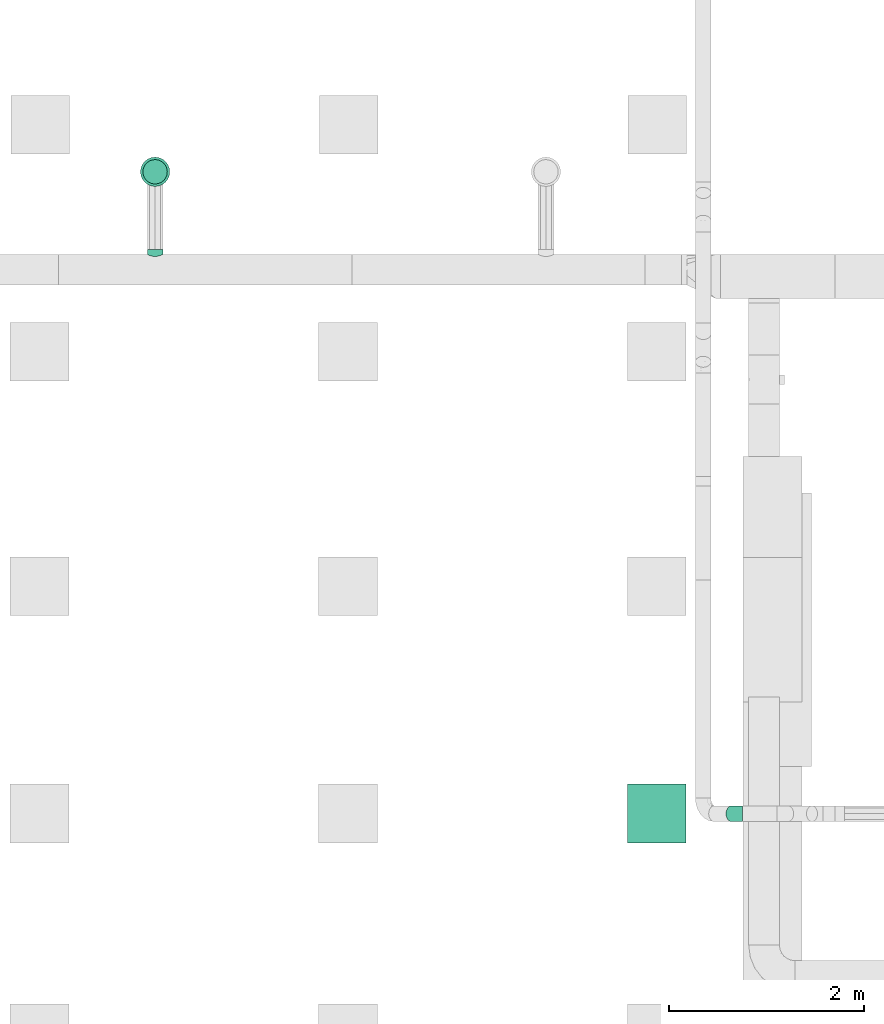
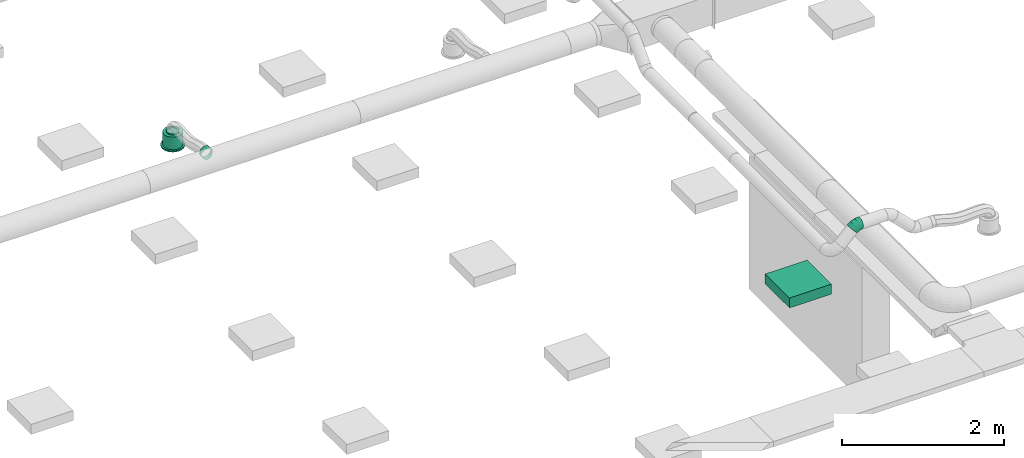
# One storey, part 23 of 119: 1 distribution element, 1 flow fitting, 1 flow segment, 1 flow terminal.
"""IFC2X3 building model written with IfcOpenShell, lengths in metres."""

from ifc_helpers import new_model, si_unit, direction, frame, frame_2d, origin, place, context, subcontext, project, spatial, rectangle, extrude, open_shell, surface_model, source, transform, mapped, element, save


model = new_model("IFC2X3")

# Units and contexts
model_context = context("Model", 3, precision=1e-05, world=origin(), true_north=direction((-0.4480736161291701, 0.8939966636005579)))
body_context = subcontext(model_context, "Body", "Model", "MODEL_VIEW")
ifc_project = project(units=[si_unit("LENGTHUNIT", "METRE"), si_unit("AREAUNIT", "SQUARE_METRE"), si_unit("VOLUMEUNIT", "CUBIC_METRE"), si_unit("PLANEANGLEUNIT", "RADIAN"), si_unit("THERMODYNAMICTEMPERATUREUNIT", "KELVIN"), si_unit("MASSUNIT", "GRAM", prefix="KILO"), si_unit("TIMEUNIT", "SECOND")], contexts=[model_context])

# Site, building, storey
site_placement = place(None, origin())
site = spatial("IfcSite", under=ifc_project, at=site_placement, Name="Site 1", CompositionType="ELEMENT")
building_placement = place(site_placement, origin())
building = spatial("IfcBuilding", under=site, at=building_placement, Name="Undefined", CompositionType="ELEMENT")
storey_placement = place(building_placement, frame((0.0, 0.0, 5.4)))
storey = spatial("IfcBuildingStorey", under=building, at=storey_placement, Name="R+1", CompositionType="ELEMENT", Elevation=5.4)

# Flow terminal
shared_shape_1 = source(origin(), body_context, "Body", "SurfaceModel", [
    surface_model("IfcFaceBasedSurfaceModel", [(0.0, 0.0, 0.0), (0.03915785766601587, 0.0, 0.0), (0.03915785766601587, 0.020000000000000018, 0.0), (3.552713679e-15, 0.020000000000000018, 0.0), (0.07698144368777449, 0.0, -0.010134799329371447), (0.07698144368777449, 0.020000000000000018, -0.010134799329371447), (0.11089314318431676, 0.0, -0.02971372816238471), (0.11089314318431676, 0.020000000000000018, -0.02971372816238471), (0.13858192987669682, 0.0, -0.05740251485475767), (0.13858192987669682, 0.020000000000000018, -0.05740251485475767), (0.15816085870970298, 0.0, -0.09131421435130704), (0.15816085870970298, 0.020000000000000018, -0.09131421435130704), (0.16829565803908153, 0.0, -0.12913780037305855), (0.16829565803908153, 0.020000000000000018, -0.12913780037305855), (0.16829565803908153, 0.0, -0.16829565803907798), (0.16829565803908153, 0.020000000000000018, -0.16829565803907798), (0.15816085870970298, 0.0, -0.20611924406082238), (0.15816085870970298, 0.020000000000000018, -0.20611924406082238), (0.13858192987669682, 0.0, -0.24003094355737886), (0.13858192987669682, 0.020000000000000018, -0.24003094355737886), (0.11089314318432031, 0.0, -0.2677197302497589), (0.11089314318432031, 0.020000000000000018, -0.2677197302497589), (0.07698144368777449, 0.0, -0.2872986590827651), (0.07698144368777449, 0.020000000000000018, -0.2872986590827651), (0.039157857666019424, 0.0, -0.29743345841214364), (0.039157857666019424, 0.020000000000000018, -0.29743345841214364), (3.552713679e-15, 0.0, -0.29743345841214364), (3.552713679e-15, 0.020000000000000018, -0.29743345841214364), (-0.03782358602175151, 0.0, -0.2872986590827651), (-0.03782358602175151, 0.020000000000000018, -0.2872986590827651), (-0.07173528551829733, 0.0, -0.2677197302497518), (-0.07173528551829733, 0.020000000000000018, -0.2677197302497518), (-0.0994240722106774, 0.0, -0.24003094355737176), (-0.0994240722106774, 0.020000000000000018, -0.24003094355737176), (-0.11900300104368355, 0.0, -0.2061192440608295), (-0.11900300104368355, 0.020000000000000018, -0.2061192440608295), (-0.1291378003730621, 0.0, -0.16829565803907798), (-0.1291378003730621, 0.020000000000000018, -0.16829565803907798), (-0.1291378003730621, 0.0, -0.12913780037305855), (-0.1291378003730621, 0.020000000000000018, -0.12913780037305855), (-0.11900300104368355, 0.0, -0.09131421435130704), (-0.11900300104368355, 0.020000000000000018, -0.09131421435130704), (-0.0994240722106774, 0.0, -0.05740251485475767), (-0.0994240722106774, 0.020000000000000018, -0.05740251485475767), (-0.07173528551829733, 0.0, -0.029713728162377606), (-0.07173528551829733, 0.020000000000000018, -0.029713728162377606), (-0.03782358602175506, 0.0, -0.010134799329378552), (-0.03782358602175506, 0.020000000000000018, -0.010134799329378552), (0.019578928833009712, 0.0, -0.14871672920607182), (0.019578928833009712, 0.020000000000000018, -0.14871672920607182), (0.003263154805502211, 0.020000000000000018, -0.02478612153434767), (0.035894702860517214, 0.020000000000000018, -0.02478612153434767), (0.035894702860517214, 0.20999999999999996, -0.02478612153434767), (0.003263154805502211, 0.20999999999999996, -0.02478612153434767), (0.06741435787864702, 0.020000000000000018, -0.033231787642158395), (0.06741435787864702, 0.20999999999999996, -0.033231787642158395), (0.0956741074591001, 0.020000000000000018, -0.04954756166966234), (0.0956741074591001, 0.20999999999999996, -0.04954756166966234), (0.11874809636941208, 0.020000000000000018, -0.07262155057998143), (0.11874809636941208, 0.20999999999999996, -0.07262155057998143), (0.13506387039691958, 0.020000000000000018, -0.10088130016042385), (0.13506387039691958, 0.20999999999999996, -0.10088130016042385), (0.1435095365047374, 0.020000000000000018, -0.13240095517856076), (0.1435095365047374, 0.20999999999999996, -0.13240095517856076), (0.1435095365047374, 0.020000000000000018, -0.16503250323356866), (0.1435095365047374, 0.20999999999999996, -0.16503250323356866), (0.13506387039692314, 0.020000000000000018, -0.19655215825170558), (0.13506387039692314, 0.20999999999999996, -0.19655215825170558), (0.11874809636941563, 0.020000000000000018, -0.2248119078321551), (0.11874809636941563, 0.20999999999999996, -0.2248119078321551), (0.09567410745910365, 0.020000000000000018, -0.24788589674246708), (0.09567410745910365, 0.20999999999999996, -0.24788589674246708), (0.06741435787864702, 0.020000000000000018, -0.26420167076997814), (0.06741435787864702, 0.20999999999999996, -0.26420167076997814), (0.035894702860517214, 0.020000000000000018, -0.27264733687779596), (0.035894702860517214, 0.20999999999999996, -0.27264733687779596), (0.0032631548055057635, 0.020000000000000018, -0.27264733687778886), (0.0032631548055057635, 0.20999999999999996, -0.27264733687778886), (-0.028256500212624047, 0.020000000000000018, -0.26420167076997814), (-0.028256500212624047, 0.20999999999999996, -0.26420167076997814), (-0.05651624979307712, 0.020000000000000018, -0.2478858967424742), (-0.05651624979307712, 0.20999999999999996, -0.2478858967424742), (-0.07959023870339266, 0.020000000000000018, -0.2248119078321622), (-0.07959023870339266, 0.20999999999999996, -0.2248119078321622), (-0.09590601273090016, 0.020000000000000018, -0.19655215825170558), (-0.09590601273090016, 0.20999999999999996, -0.19655215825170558), (-0.10435167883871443, 0.020000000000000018, -0.16503250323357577), (-0.10435167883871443, 0.20999999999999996, -0.16503250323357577), (-0.10435167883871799, 0.020000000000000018, -0.13240095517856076), (-0.10435167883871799, 0.20999999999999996, -0.13240095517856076), (-0.09590601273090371, 0.020000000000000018, -0.10088130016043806), (-0.09590601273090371, 0.20999999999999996, -0.10088130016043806), (-0.07959023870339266, 0.020000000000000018, -0.07262155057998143), (-0.07959023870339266, 0.20999999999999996, -0.07262155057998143), (-0.056516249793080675, 0.020000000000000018, -0.04954756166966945), (-0.056516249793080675, 0.20999999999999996, -0.04954756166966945), (-0.028256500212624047, 0.020000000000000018, -0.033231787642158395), (-0.028256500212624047, 0.20999999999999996, -0.033231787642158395), (0.019578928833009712, 0.20999999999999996, -0.14871672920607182), (0.009136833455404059, 0.20999999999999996, -0.06940114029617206), (0.030021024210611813, 0.20999999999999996, -0.06940114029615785), (0.030021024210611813, 0.22999999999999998, -0.06940114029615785), (0.009136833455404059, 0.22999999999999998, -0.06940114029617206), (0.05019360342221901, 0.20999999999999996, -0.07480636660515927), (0.05019360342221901, 0.22999999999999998, -0.07480636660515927), (0.06827984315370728, 0.20999999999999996, -0.08524846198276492), (0.06827984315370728, 0.22999999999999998, -0.08524846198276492), (0.0830471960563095, 0.20999999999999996, -0.10001581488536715), (0.0830471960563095, 0.22999999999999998, -0.10001581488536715), (0.0934892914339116, 0.20999999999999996, -0.11810205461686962), (0.0934892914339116, 0.22999999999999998, -0.11810205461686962), (0.09889451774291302, 0.20999999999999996, -0.13827463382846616), (0.09889451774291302, 0.22999999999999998, -0.13827463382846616), (0.09889451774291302, 0.20999999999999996, -0.15915882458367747), (0.09889451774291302, 0.22999999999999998, -0.15915882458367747), (0.09348929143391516, 0.20999999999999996, -0.179331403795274), (0.09348929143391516, 0.22999999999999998, -0.179331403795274), (0.0830471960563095, 0.20999999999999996, -0.19741764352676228), (0.0830471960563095, 0.22999999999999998, -0.19741764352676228), (0.06827984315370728, 0.20999999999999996, -0.2121849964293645), (0.06827984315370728, 0.22999999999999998, -0.2121849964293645), (0.05019360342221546, 0.20999999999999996, -0.22262709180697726), (0.05019360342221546, 0.22999999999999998, -0.22262709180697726), (0.030021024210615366, 0.20999999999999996, -0.22803231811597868), (0.030021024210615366, 0.22999999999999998, -0.22803231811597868), (0.009136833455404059, 0.20999999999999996, -0.22803231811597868), (0.009136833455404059, 0.22999999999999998, -0.22803231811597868), (-0.011035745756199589, 0.20999999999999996, -0.22262709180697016), (-0.011035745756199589, 0.22999999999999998, -0.22262709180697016), (-0.0291219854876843, 0.20999999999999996, -0.2121849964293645), (-0.0291219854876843, 0.22999999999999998, -0.2121849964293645), (-0.043889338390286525, 0.20999999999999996, -0.19741764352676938), (-0.043889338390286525, 0.22999999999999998, -0.19741764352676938), (-0.05433143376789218, 0.20999999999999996, -0.17933140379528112), (-0.05433143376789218, 0.22999999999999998, -0.17933140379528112), (-0.05973666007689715, 0.20999999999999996, -0.15915882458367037), (-0.05973666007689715, 0.22999999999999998, -0.15915882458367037), (-0.0597366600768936, 0.20999999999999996, -0.13827463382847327), (-0.0597366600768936, 0.22999999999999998, -0.13827463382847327), (-0.05433143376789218, 0.20999999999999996, -0.11810205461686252), (-0.05433143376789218, 0.22999999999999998, -0.11810205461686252), (-0.043889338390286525, 0.20999999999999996, -0.10001581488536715), (-0.043889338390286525, 0.22999999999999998, -0.10001581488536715), (-0.02912198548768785, 0.20999999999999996, -0.08524846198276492), (-0.02912198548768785, 0.22999999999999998, -0.08524846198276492), (-0.011035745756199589, 0.20999999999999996, -0.07480636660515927), (-0.011035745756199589, 0.22999999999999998, -0.07480636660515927)], [open_shell([[[0, 1, 2, 3]], [[1, 4, 5, 2]], [[4, 6, 7, 5]], [[6, 8, 9, 7]], [[8, 10, 11, 9]], [[10, 12, 13, 11]], [[12, 14, 15, 13]], [[14, 16, 17, 15]], [[16, 18, 19, 17]], [[18, 20, 21, 19]], [[20, 22, 23, 21]], [[22, 24, 25, 23]], [[24, 26, 27, 25]], [[26, 28, 29, 27]], [[28, 30, 31, 29]], [[30, 32, 33, 31]], [[32, 34, 35, 33]], [[34, 36, 37, 35]], [[36, 38, 39, 37]], [[38, 40, 41, 39]], [[40, 42, 43, 41]], [[42, 44, 45, 43]], [[44, 46, 47, 45]], [[46, 0, 3, 47]], [[48, 1, 0]], [[48, 4, 1]], [[48, 6, 4]], [[48, 8, 6]], [[48, 10, 8]], [[48, 12, 10]], [[48, 14, 12]], [[48, 16, 14]], [[48, 18, 16]], [[48, 20, 18]], [[48, 22, 20]], [[48, 24, 22]], [[48, 26, 24]], [[48, 28, 26]], [[48, 30, 28]], [[48, 32, 30]], [[48, 34, 32]], [[48, 36, 34]], [[48, 38, 36]], [[48, 40, 38]], [[48, 42, 40]], [[48, 44, 42]], [[48, 46, 44]], [[48, 0, 46]], [[49, 47, 3]], [[49, 45, 47]], [[49, 43, 45]], [[49, 41, 43]], [[49, 39, 41]], [[49, 37, 39]], [[49, 35, 37]], [[49, 33, 35]], [[49, 31, 33]], [[49, 29, 31]], [[49, 27, 29]], [[49, 25, 27]], [[49, 23, 25]], [[49, 21, 23]], [[49, 19, 21]], [[49, 17, 19]], [[49, 15, 17]], [[49, 13, 15]], [[49, 11, 13]], [[49, 9, 11]], [[49, 7, 9]], [[49, 5, 7]], [[49, 2, 5]], [[49, 3, 2]], [[50, 51, 52, 53]], [[51, 54, 55, 52]], [[54, 56, 57, 55]], [[56, 58, 59, 57]], [[58, 60, 61, 59]], [[60, 62, 63, 61]], [[62, 64, 65, 63]], [[64, 66, 67, 65]], [[66, 68, 69, 67]], [[68, 70, 71, 69]], [[70, 72, 73, 71]], [[72, 74, 75, 73]], [[74, 76, 77, 75]], [[76, 78, 79, 77]], [[78, 80, 81, 79]], [[80, 82, 83, 81]], [[82, 84, 85, 83]], [[84, 86, 87, 85]], [[86, 88, 89, 87]], [[88, 90, 91, 89]], [[90, 92, 93, 91]], [[92, 94, 95, 93]], [[94, 96, 97, 95]], [[96, 50, 53, 97]], [[49, 51, 50]], [[49, 54, 51]], [[49, 56, 54]], [[49, 58, 56]], [[49, 60, 58]], [[49, 62, 60]], [[49, 64, 62]], [[49, 66, 64]], [[49, 68, 66]], [[49, 70, 68]], [[49, 72, 70]], [[49, 74, 72]], [[49, 76, 74]], [[49, 78, 76]], [[49, 80, 78]], [[49, 82, 80]], [[49, 84, 82]], [[49, 86, 84]], [[49, 88, 86]], [[49, 90, 88]], [[49, 92, 90]], [[49, 94, 92]], [[49, 96, 94]], [[49, 50, 96]], [[98, 97, 53]], [[98, 95, 97]], [[98, 93, 95]], [[98, 91, 93]], [[98, 89, 91]], [[98, 87, 89]], [[98, 85, 87]], [[98, 83, 85]], [[98, 81, 83]], [[98, 79, 81]], [[98, 77, 79]], [[98, 75, 77]], [[98, 73, 75]], [[98, 71, 73]], [[98, 69, 71]], [[98, 67, 69]], [[98, 65, 67]], [[98, 63, 65]], [[98, 61, 63]], [[98, 59, 61]], [[98, 57, 59]], [[98, 55, 57]], [[98, 52, 55]], [[98, 53, 52]], [[99, 100, 101, 102]], [[100, 103, 104, 101]], [[103, 105, 106, 104]], [[105, 107, 108, 106]], [[107, 109, 110, 108]], [[109, 111, 112, 110]], [[111, 113, 114, 112]], [[113, 115, 116, 114]], [[115, 117, 118, 116]], [[117, 119, 120, 118]], [[119, 121, 122, 120]], [[121, 123, 124, 122]], [[123, 125, 126, 124]], [[125, 127, 128, 126]], [[127, 129, 130, 128]], [[129, 131, 132, 130]], [[131, 133, 134, 132]], [[133, 135, 136, 134]], [[135, 137, 138, 136]], [[137, 139, 140, 138]], [[139, 141, 142, 140]], [[141, 143, 144, 142]], [[143, 145, 146, 144]], [[145, 99, 102, 146]]])]),
])
flow_terminal_placement = place(storey_placement, origin())
element("IfcFlowTerminal", 1, at=flow_terminal_placement, inside=storey, Name="Air diffuseur - bouche", ObjectType="Air diffuseur - bouche", context=body_context, shape_type="MappedRepresentation", body=[
    mapped(shared_shape_1, transform((40.29270015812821, 16.804996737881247, 2.38), x_axis=(0.9914448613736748, 0.13052619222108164, 0.0), y_axis=(0.0, 0.0, 1.0), z_axis=(0.13052619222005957, -0.9914448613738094, 0.0))),
])

# Flow segment
shared_shape_2 = source(origin(), body_context, "Body", "SurfaceModel", [
    surface_model("IfcFaceBasedSurfaceModel", [(0.0013669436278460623, 0.02088419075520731, 0.0), (0.0, 0.0, 0.0), (0.05136694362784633, -8.8817842e-16, 0.0), (0.05136694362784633, 0.02088419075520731, 0.0), (-0.0037970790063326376, -0.020172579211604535, -0.005405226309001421), (0.05136694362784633, -0.020172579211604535, -0.005405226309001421), (-0.009142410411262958, -0.03825881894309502, -0.015847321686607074), (0.05136694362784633, -0.03825881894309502, -0.015847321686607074), (-0.014689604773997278, -0.05302617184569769, -0.030614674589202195), (0.05136694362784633, -0.05302617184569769, -0.030614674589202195), (-0.018892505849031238, -0.06346826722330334, -0.04870091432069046), (0.05136694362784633, -0.06346826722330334, -0.04870091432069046), (-0.020463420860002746, -0.06887349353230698, -0.0688734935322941), (0.05136694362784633, -0.06887349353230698, -0.0688734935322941), (-0.018892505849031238, -0.06887349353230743, -0.08975768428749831), (0.05136694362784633, -0.06887349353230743, -0.08975768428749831), (-0.014689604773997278, -0.06346826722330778, -0.10993026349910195), (0.05136694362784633, -0.06346826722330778, -0.10993026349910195), (-0.009142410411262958, -0.05302617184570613, -0.12801650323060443), (0.05136694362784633, -0.05302617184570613, -0.12801650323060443), (-0.0037970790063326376, -0.03825881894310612, -0.14278385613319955), (0.05136694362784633, -0.03825881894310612, -0.14278385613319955), (0.0, -0.020172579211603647, -0.15322595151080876), (0.05136694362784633, -0.020172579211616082, -0.1532259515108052), (0.0013669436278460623, -1.3766765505e-14, -0.15863117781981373), (0.05136694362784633, -1.3766765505e-14, -0.15863117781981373), (0.0, 0.020884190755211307, -0.15863117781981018), (0.05136694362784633, 0.02088419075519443, -0.15863117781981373), (-0.0037970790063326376, 0.041056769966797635, -0.1532259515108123), (0.05136694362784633, 0.041056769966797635, -0.1532259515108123), (-0.009142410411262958, 0.05914300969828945, -0.14278385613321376), (0.05136694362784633, 0.05914300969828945, -0.14278385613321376), (-0.014689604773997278, 0.07391036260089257, -0.12801650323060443), (0.05136694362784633, 0.07391036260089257, -0.12801650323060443), (-0.018892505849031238, 0.08435245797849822, -0.10993026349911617), (0.05136694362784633, 0.08435245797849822, -0.10993026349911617), (-0.020463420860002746, 0.08975768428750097, -0.08975768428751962), (0.05136694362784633, 0.08975768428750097, -0.08975768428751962), (-0.018892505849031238, 0.0897576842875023, -0.06887349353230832), (0.05136694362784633, 0.0897576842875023, -0.06887349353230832), (-0.014689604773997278, 0.08435245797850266, -0.04870091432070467), (0.05136694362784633, 0.08435245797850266, -0.04870091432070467), (-0.009142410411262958, 0.07391036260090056, -0.030614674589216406), (0.05136694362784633, 0.07391036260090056, -0.030614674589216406), (-0.0037970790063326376, 0.05914300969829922, -0.01584732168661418), (0.05136694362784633, 0.05914300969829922, -0.01584732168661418), (0.0, 0.04105676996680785, -0.005405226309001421), (0.05136694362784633, 0.04105676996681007, -0.005405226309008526)], [open_shell([[[0, 1, 2, 3]], [[1, 4, 5, 2]], [[4, 6, 7, 5]], [[6, 8, 9, 7]], [[8, 10, 11, 9]], [[10, 12, 13, 11]], [[12, 14, 15, 13]], [[14, 16, 17, 15]], [[16, 18, 19, 17]], [[18, 20, 21, 19]], [[20, 22, 23, 21]], [[22, 24, 25, 23]], [[24, 26, 27, 25]], [[26, 28, 29, 27]], [[28, 30, 31, 29]], [[30, 32, 33, 31]], [[32, 34, 35, 33]], [[34, 36, 37, 35]], [[36, 38, 39, 37]], [[38, 40, 41, 39]], [[40, 42, 43, 41]], [[42, 44, 45, 43]], [[44, 46, 47, 45]], [[46, 0, 3, 47]]])]),
])
flow_segment_placement = place(storey_placement, origin())
element("IfcFlowSegment", 2, at=flow_segment_placement, inside=storey, Name="Piquage équerre circulaire", ObjectType="Piquage équerre circulaire", context=body_context, shape_type="MappedRepresentation", body=[
    mapped(shared_shape_2, transform((40.21542609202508, 16.108427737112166, 2.7957055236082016), x_axis=(0.0, 1.0, 0.0), y_axis=(-0.13052619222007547, 0.0, -0.9914448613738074), z_axis=(-0.9914448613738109, 0.0, 0.1305261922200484))),
])

# Flow fitting
shared_shape_3 = source(origin(), body_context, "Body", "SurfaceModel", [
    surface_model("IfcFaceBasedSurfaceModel", [(0.06265257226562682, -8.8817842e-16, 0.0), (0.062296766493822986, 0.02088115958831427, -7.105427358e-15), (0.0003558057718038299, 0.020881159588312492, 7.105427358e-15), (0.0, 0.0, 0.0), (-0.059474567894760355, 0.022956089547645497, -0.015896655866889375), (-0.06051773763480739, 0.002098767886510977, -0.01607928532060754), (-0.11311701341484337, 0.02696454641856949, -0.04660663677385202), (-0.11477645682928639, 0.006153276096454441, -0.04714207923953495), (0.061253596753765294, 0.04103889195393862, -0.0053597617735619), (0.0013989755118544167, 0.04103889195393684, -0.005359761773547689), (-0.05641614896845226, 0.04304393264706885, -0.02072097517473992), (-0.10825177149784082, 0.04691737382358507, -0.050396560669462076), (0.05959415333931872, 0.05909948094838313, -0.01571402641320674), (0.003058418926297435, 0.05909948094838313, -0.01571402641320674), (-0.05155090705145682, 0.06099334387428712, -0.030223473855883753), (-0.10051228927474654, 0.06465200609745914, -0.058253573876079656), (0.057431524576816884, 0.07383212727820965, -0.030357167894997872), (0.005221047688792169, 0.07383212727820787, -0.03035716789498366), (-0.0452104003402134, 0.07558110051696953, -0.04375657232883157), (-0.09042599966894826, 0.07895985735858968, -0.06964223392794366), (0.054913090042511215, 0.0842328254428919, -0.048291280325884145), (0.007739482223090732, 0.08423282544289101, -0.04829128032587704), (-0.037826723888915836, 0.08581307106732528, -0.06039801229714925), (-0.07868026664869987, 0.08886587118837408, -0.08378642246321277), (0.05221047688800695, 0.0895927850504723, -0.06829418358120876), (0.010442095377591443, 0.08959278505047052, -0.06829418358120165), (-0.029903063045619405, 0.09099196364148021, -0.07901370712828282), (-0.06607554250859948, 0.09369496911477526, -0.0997222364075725), (0.04950786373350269, 0.08954673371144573, -0.08900271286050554), (0.013144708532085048, 0.08954673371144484, -0.08900271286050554), (-0.02197940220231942, 0.09076484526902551, -0.09833502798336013), (-0.05347081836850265, 0.09311805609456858, -0.11636367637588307), (0.04698942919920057, 0.08409780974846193, -0.10900561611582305), (0.015663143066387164, 0.08409780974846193, -0.10900561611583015), (-0.014595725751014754, 0.08514719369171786, -0.11704525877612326), (-0.0417250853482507, 0.0871744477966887, -0.13257665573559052), (0.04482680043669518, 0.0736173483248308, -0.12693972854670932), (0.017825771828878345, 0.0736173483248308, -0.12693972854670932), (-0.008255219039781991, 0.07452184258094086, -0.13386932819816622), (-0.03163879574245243, 0.0762691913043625, -0.14725628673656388), (0.04316735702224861, 0.058819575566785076, -0.14158287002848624), (0.019485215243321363, 0.058819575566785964, -0.14158287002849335), (-0.0033899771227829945, 0.05961289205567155, -0.14766070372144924), (-0.02389931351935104, 0.06114546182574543, -0.15940217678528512), (0.04212418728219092, 0.040712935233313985, -0.15193713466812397), (0.020528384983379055, 0.040712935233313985, -0.15193713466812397), (-0.00033155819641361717, 0.041436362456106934, -0.15747952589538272), (-0.019034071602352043, 0.04283391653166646, -0.16818660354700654), (0.04176838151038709, 0.02053136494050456, -0.15729689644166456), (0.020884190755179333, 0.02053136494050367, -0.15729689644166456), (0.0007116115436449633, 0.02123095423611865, -0.16265665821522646), (-0.017374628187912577, 0.022582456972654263, -0.17301092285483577), (0.04212418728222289, -0.000349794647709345, -0.15729689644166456), (0.02052838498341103, -0.000349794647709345, -0.15729689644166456), (0.020528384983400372, -0.000349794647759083, -0.15729689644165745), (-0.0003315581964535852, 0.00037363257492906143, -0.1628392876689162), (0.0007116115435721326, 0.021230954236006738, -0.16265665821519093), (-0.019034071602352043, 0.0017711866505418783, -0.17354636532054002), (0.04316735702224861, -0.020507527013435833, -0.15193713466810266), (0.019485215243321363, -0.020507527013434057, -0.15193713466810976), (-0.0033899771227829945, -0.019714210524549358, -0.15801496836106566), (-0.00033155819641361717, 0.00037363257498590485, -0.1628392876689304), (-0.02389931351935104, -0.01818164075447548, -0.16975644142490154), (0.04482680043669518, -0.03856811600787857, -0.1415828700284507), (0.017825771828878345, -0.03856811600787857, -0.1415828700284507), (-0.008255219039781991, -0.03766362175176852, -0.1485124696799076), (-0.03163879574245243, -0.03591627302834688, -0.16189942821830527), (0.04698942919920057, -0.05330076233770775, -0.12693972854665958), (0.015663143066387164, -0.05330076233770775, -0.12693972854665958), (-0.014595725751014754, -0.05225137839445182, -0.1349793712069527), (-0.0417250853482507, -0.05022412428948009, -0.15051076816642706), (0.04950786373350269, -0.06370146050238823, -0.10900561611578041), (0.013144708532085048, -0.06370146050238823, -0.10900561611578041), (-0.02197940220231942, -0.06248334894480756, -0.11833793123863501), (-0.05347081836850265, -0.06013013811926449, -0.13636657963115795), (0.05221047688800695, -0.06906142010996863, -0.08900271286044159), (0.010442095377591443, -0.06906142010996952, -0.08900271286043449), (-0.029903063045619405, -0.06766224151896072, -0.09972223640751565), (-0.06607554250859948, -0.06495923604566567, -0.12043076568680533), (0.054913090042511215, -0.06901536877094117, -0.06829418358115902), (0.007739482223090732, -0.06901536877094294, -0.06829418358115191), (-0.037826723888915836, -0.06743512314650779, -0.08040091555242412), (-0.07868026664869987, -0.06438232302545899, -0.10378932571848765), (0.057431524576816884, -0.06356644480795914, -0.0482912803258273), (0.005221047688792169, -0.06356644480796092, -0.04829128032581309), (-0.0452104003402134, -0.061817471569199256, -0.0616906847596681), (-0.09042599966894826, -0.05843871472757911, -0.0875763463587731), (0.05959415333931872, -0.05308598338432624, -0.030357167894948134), (0.003058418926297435, -0.05308598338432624, -0.030357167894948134), (-0.05155090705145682, -0.05119212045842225, -0.04486661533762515), (-0.10051228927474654, -0.04753345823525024, -0.07289671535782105), (0.061253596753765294, -0.03828821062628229, -0.015714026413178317), (0.0013989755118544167, -0.03828821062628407, -0.015714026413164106), (-0.05641614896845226, -0.03628316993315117, -0.031075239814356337), (-0.10825177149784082, -0.03240972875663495, -0.06075082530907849), (0.062296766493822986, -0.020181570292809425, -0.005359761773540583), (0.0003558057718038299, -0.020181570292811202, -0.0053597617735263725), (-0.059474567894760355, -0.018106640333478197, -0.021256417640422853), (-0.11311701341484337, -0.014098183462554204, -0.051966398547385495)], [open_shell([[[0, 1, 2, 3]], [[3, 2, 4, 5]], [[5, 4, 6, 7]], [[1, 8, 9, 2]], [[2, 9, 10, 4]], [[4, 10, 11, 6]], [[8, 12, 13, 9]], [[9, 13, 14, 10]], [[10, 14, 15, 11]], [[12, 16, 17, 13]], [[13, 17, 18, 14]], [[14, 18, 19, 15]], [[16, 20, 21, 17]], [[17, 21, 22, 18]], [[18, 22, 23, 19]], [[20, 24, 25, 21]], [[21, 25, 26, 22]], [[22, 26, 27, 23]], [[24, 28, 29, 25]], [[25, 29, 30, 26]], [[26, 30, 31, 27]], [[28, 32, 33, 29]], [[29, 33, 34, 30]], [[30, 34, 35, 31]], [[32, 36, 37, 33]], [[33, 37, 38, 34]], [[34, 38, 39, 35]], [[36, 40, 41, 37]], [[37, 41, 42, 38]], [[38, 42, 43, 39]], [[40, 44, 45, 41]], [[41, 45, 46, 42]], [[42, 46, 47, 43]], [[44, 48, 49, 45]], [[45, 49, 50, 46]], [[46, 50, 51, 47]], [[48, 52, 53, 49]], [[49, 54, 55, 56]], [[56, 55, 57, 51]], [[52, 58, 59, 53]], [[54, 59, 60, 55]], [[61, 60, 62, 57]], [[58, 63, 64, 59]], [[59, 64, 65, 60]], [[60, 65, 66, 62]], [[63, 67, 68, 64]], [[64, 68, 69, 65]], [[65, 69, 70, 66]], [[67, 71, 72, 68]], [[68, 72, 73, 69]], [[69, 73, 74, 70]], [[71, 75, 76, 72]], [[72, 76, 77, 73]], [[73, 77, 78, 74]], [[75, 79, 80, 76]], [[76, 80, 81, 77]], [[77, 81, 82, 78]], [[79, 83, 84, 80]], [[80, 84, 85, 81]], [[81, 85, 86, 82]], [[83, 87, 88, 84]], [[84, 88, 89, 85]], [[85, 89, 90, 86]], [[87, 91, 92, 88]], [[88, 92, 93, 89]], [[89, 93, 94, 90]], [[91, 95, 96, 92]], [[92, 96, 97, 93]], [[93, 97, 98, 94]], [[95, 0, 3, 96]], [[96, 3, 5, 97]], [[97, 5, 7, 98]]])]),
])
flow_fitting_placement = place(storey_placement, origin())
element("IfcFlowFitting", 3, at=flow_fitting_placement, inside=storey, Name="Coude", ObjectType="Coude", context=body_context, shape_type="MappedRepresentation", body=[
    mapped(shared_shape_3, transform((46.18539178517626, 10.385632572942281, 3.135346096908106), x_axis=(-0.7933533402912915, 0.0, -0.6087614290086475), y_axis=(0.07879096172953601, -0.9915887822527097, -0.10268238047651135), z_axis=(-0.6036410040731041, -0.12942830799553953, 0.7866802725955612))),
])

# Distribution element
distribution_element_placement = place(storey_placement, origin())
element("IfcDistributionElement", 4, at=distribution_element_placement, inside=storey, Name="Decken-Rechteckleuchte mit Rahmen AP", ObjectType="Decken-Rechteckleuchte mit Rahmen AP", context=body_context, shape_type="SweptSolid", body=[
    extrude(rectangle(XDim=0.6000000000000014, YDim=0.6000000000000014, at=frame_2d((3.552713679e-15, 0.0), x_axis=(0.0, 1.0))), frame((45.42533717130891, 10.3875, 2.5500000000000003), z_axis=(0.0, 0.0, -1.0), x_axis=(1.0, 0.0, 0.0)), (0.0, 0.0, 1.0), 0.15),
])

save(model, "model.ifc")
